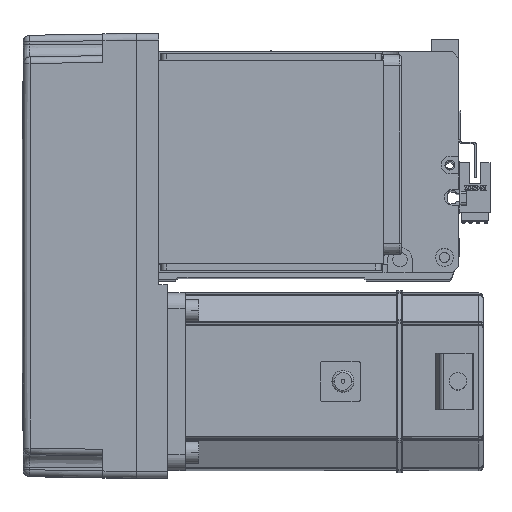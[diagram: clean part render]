
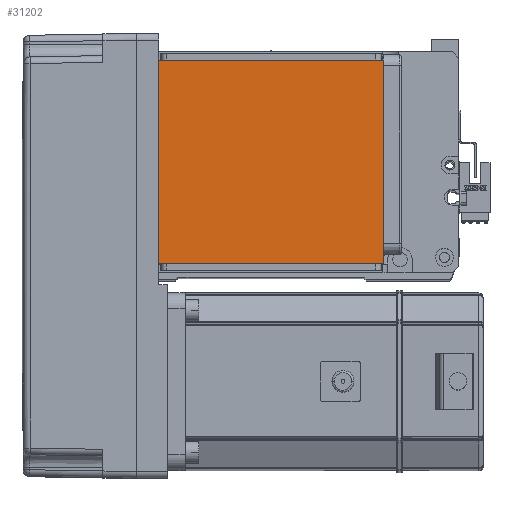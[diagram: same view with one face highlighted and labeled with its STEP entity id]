
A CAD part, top view. The second image highlights one B-rep face of the part: STEP entity #31202.
In plain terms, the highlighted planar face has unit normal (0, 0, 1).
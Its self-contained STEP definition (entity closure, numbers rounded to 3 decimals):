
#720 = DIRECTION ( 'NONE',  ( 0., 0., 1. ) ) ;
#1938 = VECTOR ( 'NONE', #47709, 1000. ) ;
#3867 = EDGE_CURVE ( 'NONE', #37307, #38298, #51699, .T. ) ;
#3884 = LINE ( 'NONE', #29969, #5902 ) ;
#5902 = VECTOR ( 'NONE', #29405, 1000. ) ;
#10555 = VERTEX_POINT ( 'NONE', #19602 ) ;
#13854 = DIRECTION ( 'NONE',  ( 1., 0., 0. ) ) ;
#14673 = DIRECTION ( 'NONE',  ( 0., -1., 0. ) ) ;
#14714 = EDGE_CURVE ( 'NONE', #10555, #26276, #25119, .T. ) ;
#16709 = VECTOR ( 'NONE', #14673, 1000. ) ;
#17649 = CARTESIAN_POINT ( 'NONE',  ( -70.004, 20., 115. ) ) ;
#19512 = ORIENTED_EDGE ( 'NONE', *, *, #32163, .F. ) ;
#19602 = CARTESIAN_POINT ( 'NONE',  ( 50.5, 20., 115. ) ) ;
#20311 = CARTESIAN_POINT ( 'NONE',  ( -50.5, 20., 115. ) ) ;
#22566 = EDGE_CURVE ( 'NONE', #37307, #26276, #3884, .T. ) ;
#22720 = FACE_OUTER_BOUND ( 'NONE', #38412, .T. ) ;
#25119 = LINE ( 'NONE', #50025, #38626 ) ;
#26276 = VERTEX_POINT ( 'NONE', #46683 ) ;
#26404 = PLANE ( 'NONE',  #54876 ) ;
#29405 = DIRECTION ( 'NONE',  ( 1., 0., 0. ) ) ;
#29969 = CARTESIAN_POINT ( 'NONE',  ( -70.004, 111.5, 115. ) ) ;
#31202 = ADVANCED_FACE ( 'NONE', ( #22720 ), #26404, .T. ) ;
#32163 = EDGE_CURVE ( 'NONE', #10555, #38298, #55019, .T. ) ;
#35623 = ORIENTED_EDGE ( 'NONE', *, *, #3867, .T. ) ;
#36436 = ORIENTED_EDGE ( 'NONE', *, *, #14714, .T. ) ;
#37307 = VERTEX_POINT ( 'NONE', #54447 ) ;
#37964 = DIRECTION ( 'NONE',  ( 0., 1., 0. ) ) ;
#38298 = VERTEX_POINT ( 'NONE', #20311 ) ;
#38412 = EDGE_LOOP ( 'NONE', ( #38811, #35623, #19512, #36436 ) ) ;
#38626 = VECTOR ( 'NONE', #37964, 1000. ) ;
#38811 = ORIENTED_EDGE ( 'NONE', *, *, #22566, .F. ) ;
#39766 = CARTESIAN_POINT ( 'NONE',  ( 0., 0., 115. ) ) ;
#46683 = CARTESIAN_POINT ( 'NONE',  ( 50.5, 111.5, 115. ) ) ;
#47709 = DIRECTION ( 'NONE',  ( -1., 0., 0. ) ) ;
#48873 = CARTESIAN_POINT ( 'NONE',  ( -50.5, 122., 115. ) ) ;
#50025 = CARTESIAN_POINT ( 'NONE',  ( 50.5, 122., 115. ) ) ;
#51699 = LINE ( 'NONE', #48873, #16709 ) ;
#54447 = CARTESIAN_POINT ( 'NONE',  ( -50.5, 111.5, 115. ) ) ;
#54876 = AXIS2_PLACEMENT_3D ( 'NONE', #39766, #720, #13854 ) ;
#55019 = LINE ( 'NONE', #17649, #1938 ) ;
